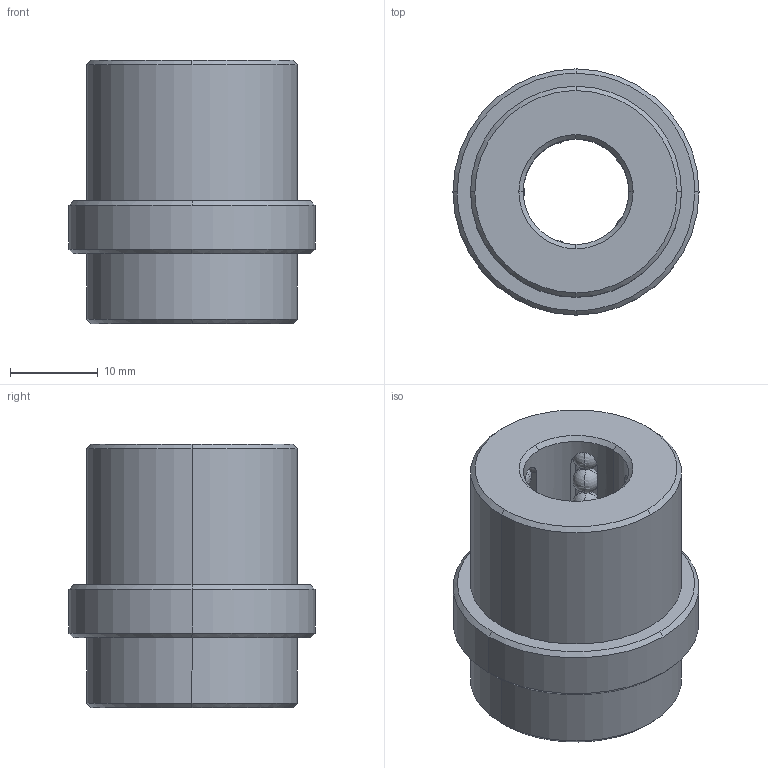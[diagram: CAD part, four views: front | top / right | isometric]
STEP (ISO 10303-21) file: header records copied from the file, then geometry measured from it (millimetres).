
FILE_DESCRIPTION(('CATIA V5 STEP Exchange'),'2;1');
FILE_NAME('C:\Users\Raffaele\Desktop\3D BOLEX\3D FILES CF BOLEX\2-BUSH REF 802\B8021222.stp','2019-06-19T13:59:34+00:00',('none'),('none'),'CATIA Version 5 Release 20 GA (IN-10)','CATIA V5 STEP AP203','none');
FILE_SCHEMA(('CONFIG_CONTROL_DESIGN'));
Length unit declared in the file: millimetre
Products named in the file (1): B8021222
Bounding box: 28 x 28 x 30 mm (x, y, z)
Volume: 10577.9 mm3; surface area: 6312.7 mm2
Topology: 41 solids, 41 shells, 221 faces, 627 edges, 174 vertices
Faces by surface type: sphere 160, cone 24, plane 19, cylinder 18
Entity records: 4852 total; most frequent: CARTESIAN_POINT 1212, DIRECTION 715, ORIENTED_EDGE 614, AXIS2_PLACEMENT_3D 422, EDGE_CURVE 307, EDGE_LOOP 229, ADVANCED_FACE 221, FACE_OUTER_BOUND 221
